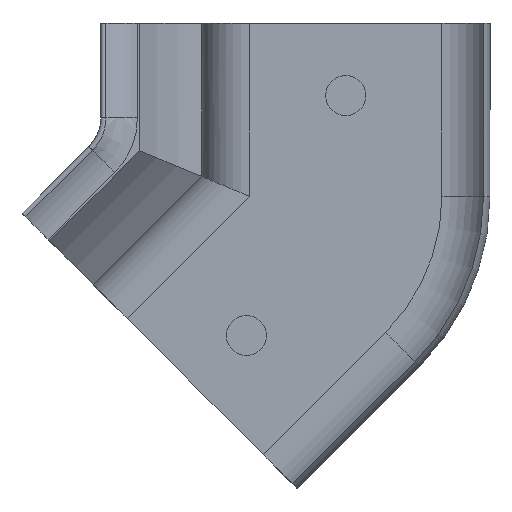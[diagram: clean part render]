
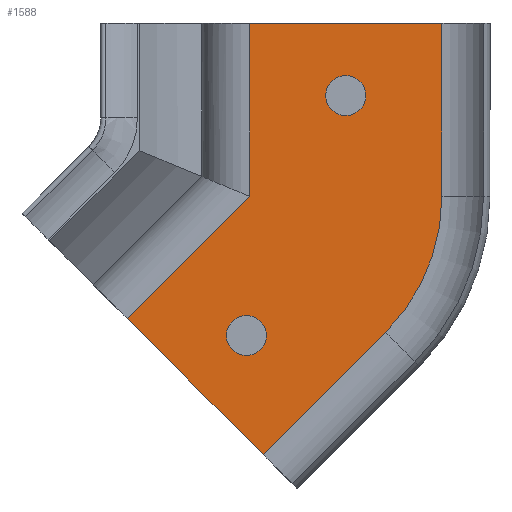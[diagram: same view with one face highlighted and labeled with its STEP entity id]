
A CAD part, front view. The second image highlights one B-rep face of the part: STEP entity #1588.
In plain terms, the highlighted planar face has unit normal (0, -1, 0).
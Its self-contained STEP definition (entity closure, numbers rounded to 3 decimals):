
#26 = ORIENTED_EDGE ( 'NONE', *, *, #218, .T. ) ;
#27 = EDGE_CURVE ( 'NONE', #269, #732, #1777, .T. ) ;
#62 = CIRCLE ( 'NONE', #1678, 1.25 ) ;
#64 = DIRECTION ( 'NONE',  ( 1., 0., 0. ) ) ;
#74 = LINE ( 'NONE', #226, #1377 ) ;
#125 = ORIENTED_EDGE ( 'NONE', *, *, #1074, .T. ) ;
#150 = DIRECTION ( 'NONE',  ( -0.707, 0., -0.707 ) ) ;
#152 = ORIENTED_EDGE ( 'NONE', *, *, #390, .F. ) ;
#204 = CARTESIAN_POINT ( 'NONE',  ( -15.203, 0., -19.475 ) ) ;
#208 = CIRCLE ( 'NONE', #419, 12. ) ;
#218 = EDGE_CURVE ( 'NONE', #732, #964, #486, .T. ) ;
#221 = CARTESIAN_POINT ( 'NONE',  ( -15., 0., -39.156 ) ) ;
#226 = CARTESIAN_POINT ( 'NONE',  ( -3., 0., -10.787 ) ) ;
#252 = AXIS2_PLACEMENT_3D ( 'NONE', #562, #1817, #1507 ) ;
#269 = VERTEX_POINT ( 'NONE', #1644 ) ;
#318 = EDGE_LOOP ( 'NONE', ( #152 ) ) ;
#322 = DIRECTION ( 'NONE',  ( 0., 1., 0. ) ) ;
#336 = EDGE_CURVE ( 'NONE', #1976, #1856, #74, .T. ) ;
#363 = CARTESIAN_POINT ( 'NONE',  ( -22.627, 0., -18.414 ) ) ;
#368 = DIRECTION ( 'NONE',  ( 0., 0., -1. ) ) ;
#390 = EDGE_CURVE ( 'NONE', #1126, #1126, #62, .T. ) ;
#394 = EDGE_CURVE ( 'NONE', #1115, #1115, #1440, .T. ) ;
#405 = CARTESIAN_POINT ( 'NONE',  ( -6.515, 0., -19.272 ) ) ;
#419 = AXIS2_PLACEMENT_3D ( 'NONE', #485, #322, #736 ) ;
#458 = VECTOR ( 'NONE', #1740, 1000. ) ;
#485 = CARTESIAN_POINT ( 'NONE',  ( -15., 0., -10.787 ) ) ;
#486 = LINE ( 'NONE', #1113, #458 ) ;
#562 = CARTESIAN_POINT ( 'NONE',  ( 0., 0., -39.156 ) ) ;
#579 = ORIENTED_EDGE ( 'NONE', *, *, #27, .T. ) ;
#596 = VERTEX_POINT ( 'NONE', #911 ) ;
#633 = EDGE_CURVE ( 'NONE', #1048, #596, #1686, .T. ) ;
#718 = FACE_OUTER_BOUND ( 'NONE', #1821, .T. ) ;
#722 = CARTESIAN_POINT ( 'NONE',  ( -3., 0., -10.787 ) ) ;
#726 = CARTESIAN_POINT ( 'NONE',  ( -9., 0., -4.5 ) ) ;
#732 = VERTEX_POINT ( 'NONE', #1888 ) ;
#736 = DIRECTION ( 'NONE',  ( -1., 0., 0. ) ) ;
#756 = CARTESIAN_POINT ( 'NONE',  ( -6.515, 0., -19.272 ) ) ;
#778 = CARTESIAN_POINT ( 'NONE',  ( 0., 0., 0. ) ) ;
#796 = EDGE_CURVE ( 'NONE', #1976, #1048, #208, .T. ) ;
#801 = ORIENTED_EDGE ( 'NONE', *, *, #1227, .F. ) ;
#911 = CARTESIAN_POINT ( 'NONE',  ( -14.142, 0., -26.899 ) ) ;
#916 = VECTOR ( 'NONE', #150, 1000. ) ;
#954 = CARTESIAN_POINT ( 'NONE',  ( -7.75, 0., -4.5 ) ) ;
#964 = VERTEX_POINT ( 'NONE', #363 ) ;
#1014 = FACE_BOUND ( 'NONE', #318, .T. ) ;
#1015 = AXIS2_PLACEMENT_3D ( 'NONE', #204, #1467, #64 ) ;
#1048 = VERTEX_POINT ( 'NONE', #405 ) ;
#1059 = DIRECTION ( 'NONE',  ( 0.707, 0., -0.707 ) ) ;
#1074 = EDGE_CURVE ( 'NONE', #964, #596, #1985, .T. ) ;
#1113 = CARTESIAN_POINT ( 'NONE',  ( -22.627, 0., -18.414 ) ) ;
#1115 = VERTEX_POINT ( 'NONE', #2027 ) ;
#1126 = VERTEX_POINT ( 'NONE', #954 ) ;
#1180 = ORIENTED_EDGE ( 'NONE', *, *, #336, .T. ) ;
#1216 = ORIENTED_EDGE ( 'NONE', *, *, #394, .F. ) ;
#1227 = EDGE_CURVE ( 'NONE', #269, #1856, #1716, .T. ) ;
#1271 = ORIENTED_EDGE ( 'NONE', *, *, #796, .F. ) ;
#1324 = DIRECTION ( 'NONE',  ( 0., 0., 1. ) ) ;
#1377 = VECTOR ( 'NONE', #1324, 1000. ) ;
#1408 = VECTOR ( 'NONE', #1059, 1000. ) ;
#1440 = CIRCLE ( 'NONE', #1015, 1.25 ) ;
#1467 = DIRECTION ( 'NONE',  ( 0., -1., 0. ) ) ;
#1507 = DIRECTION ( 'NONE',  ( 1., 0., 0. ) ) ;
#1524 = ORIENTED_EDGE ( 'NONE', *, *, #633, .F. ) ;
#1571 = CARTESIAN_POINT ( 'NONE',  ( -3., 0., 0. ) ) ;
#1588 = ADVANCED_FACE ( 'NONE', ( #1014, #718, #1957 ), #1972, .T. ) ;
#1615 = DIRECTION ( 'NONE',  ( 0., -1., 0. ) ) ;
#1644 = CARTESIAN_POINT ( 'NONE',  ( -15., 0., 0. ) ) ;
#1678 = AXIS2_PLACEMENT_3D ( 'NONE', #726, #1615, #1978 ) ;
#1686 = LINE ( 'NONE', #756, #916 ) ;
#1716 = LINE ( 'NONE', #778, #1734 ) ;
#1734 = VECTOR ( 'NONE', #1889, 1000. ) ;
#1735 = VECTOR ( 'NONE', #368, 1000. ) ;
#1740 = DIRECTION ( 'NONE',  ( -0.707, 0., -0.707 ) ) ;
#1777 = LINE ( 'NONE', #221, #1735 ) ;
#1817 = DIRECTION ( 'NONE',  ( 0., -1., 0. ) ) ;
#1820 = CARTESIAN_POINT ( 'NONE',  ( -12.021, 0., -29.021 ) ) ;
#1821 = EDGE_LOOP ( 'NONE', ( #579, #26, #125, #1524, #1271, #1180, #801 ) ) ;
#1856 = VERTEX_POINT ( 'NONE', #1571 ) ;
#1880 = EDGE_LOOP ( 'NONE', ( #1216 ) ) ;
#1888 = CARTESIAN_POINT ( 'NONE',  ( -15., 0., -10.787 ) ) ;
#1889 = DIRECTION ( 'NONE',  ( 1., 0., 0. ) ) ;
#1957 = FACE_BOUND ( 'NONE', #1880, .T. ) ;
#1972 = PLANE ( 'NONE',  #252 ) ;
#1976 = VERTEX_POINT ( 'NONE', #722 ) ;
#1978 = DIRECTION ( 'NONE',  ( 1., 0., 0. ) ) ;
#1985 = LINE ( 'NONE', #1820, #1408 ) ;
#2027 = CARTESIAN_POINT ( 'NONE',  ( -13.953, 0., -19.475 ) ) ;
